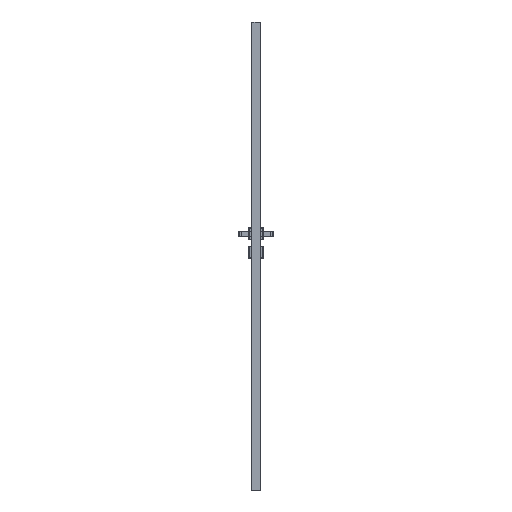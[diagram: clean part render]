
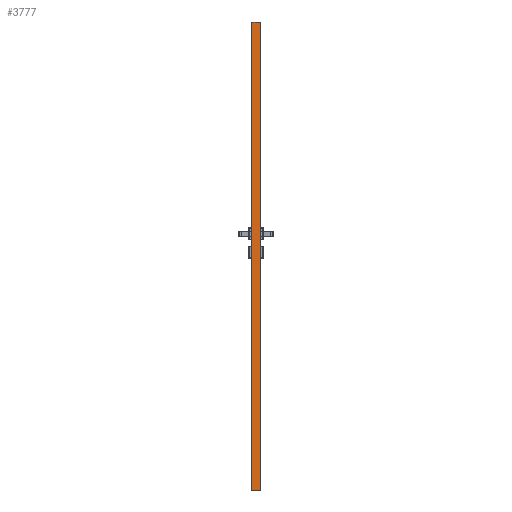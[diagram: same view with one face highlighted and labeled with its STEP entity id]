
A CAD part, left-side view. The second image highlights one B-rep face of the part: STEP entity #3777.
In plain terms, the highlighted planar face has unit normal (-1, 0, 0).
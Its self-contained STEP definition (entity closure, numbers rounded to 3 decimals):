
#3777=ADVANCED_FACE('',(#6324),#5044,.F.);
#5044=PLANE('',#31568);
#6324=FACE_OUTER_BOUND('',#8090,.T.);
#8090=EDGE_LOOP('',(#12709,#12710,#12711,#12712));
#12709=ORIENTED_EDGE('',*,*,#22446,.T.);
#12710=ORIENTED_EDGE('',*,*,#22321,.T.);
#12711=ORIENTED_EDGE('',*,*,#22447,.F.);
#12712=ORIENTED_EDGE('',*,*,#22448,.T.);
#18888=VERTEX_POINT('',#50951);
#18889=VERTEX_POINT('',#50953);
#18954=VERTEX_POINT('',#51261);
#18955=VERTEX_POINT('',#51263);
#22321=EDGE_CURVE('',#18889,#18888,#25885,.T.);
#22446=EDGE_CURVE('',#18954,#18889,#25967,.T.);
#22447=EDGE_CURVE('',#18955,#18888,#25968,.T.);
#22448=EDGE_CURVE('',#18955,#18954,#25969,.T.);
#25885=LINE('',#50952,#28570);
#25967=LINE('',#51260,#28652);
#25968=LINE('',#51262,#28653);
#25969=LINE('',#51264,#28654);
#28570=VECTOR('',#36512,1.);
#28652=VECTOR('',#36778,1.);
#28653=VECTOR('',#36779,1.);
#28654=VECTOR('',#36780,1.);
#31568=AXIS2_PLACEMENT_3D('',#51265,#36781,#36782);
#36512=DIRECTION('',(0.,1.,0.));
#36778=DIRECTION('',(0.,0.,1.));
#36779=DIRECTION('',(0.,0.,1.));
#36780=DIRECTION('',(0.,-1.,0.));
#36781=DIRECTION('',(1.,0.,0.));
#36782=DIRECTION('',(0.,1.,0.));
#50951=CARTESIAN_POINT('',(-309.,-1.65,2017.02));
#50952=CARTESIAN_POINT('',(-309.,0.,2017.02));
#50953=CARTESIAN_POINT('',(-309.,-38.35,2017.02));
#51260=CARTESIAN_POINT('',(-309.,-38.35,0.));
#51261=CARTESIAN_POINT('',(-309.,-38.35,0.));
#51262=CARTESIAN_POINT('',(-309.,-1.65,0.));
#51263=CARTESIAN_POINT('',(-309.,-1.65,0.));
#51264=CARTESIAN_POINT('',(-309.,-38.35,0.));
#51265=CARTESIAN_POINT('',(-309.,-38.35,0.));
